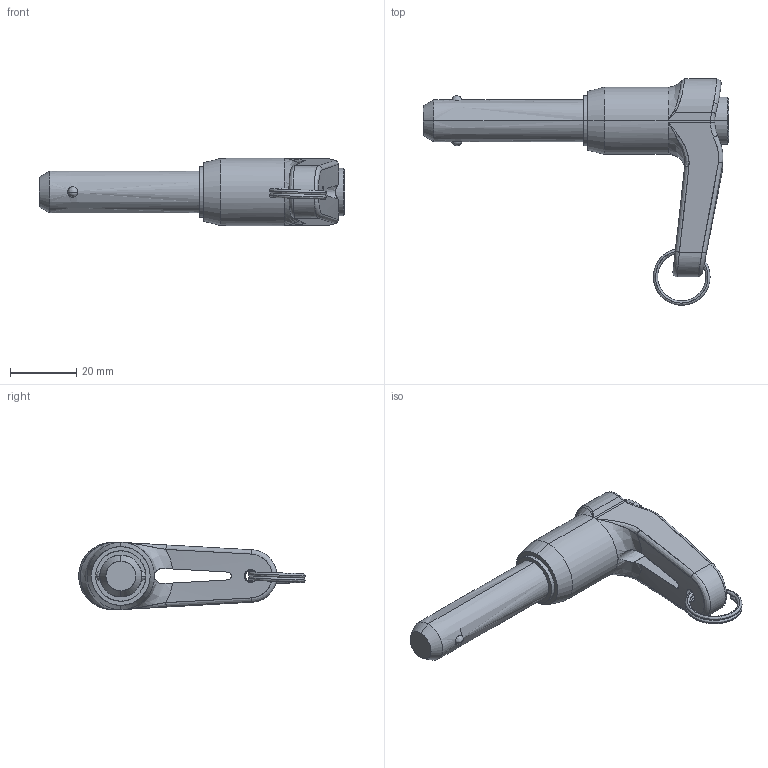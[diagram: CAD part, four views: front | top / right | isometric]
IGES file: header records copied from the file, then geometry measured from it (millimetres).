
Start section: SolidWorks IGES file using analytic representation for surfaces
Global section: file name: C:\Documents and Settings\IANO\My Documents\Wix and Auto CAD Work\CAD Models\Parametric Models\Wix Models\30000\33620_v2\33620_v2_20160606_IGES\33620.F015.igs; native system: SolidWorks 2009; preprocessor: SolidWorks 2009; author: IANO; date: 160615.130136; units: inch
Bounding box: 92.46 x 68.52 x 20.32 mm (x, y, z)
Surface area: 11545.6 mm2 (no closed solid volume)
Topology: 0 solids, 0 shells, 83 faces, 1222 edges, 1220 vertices
Faces by surface type: bspline 53, revolution 30
